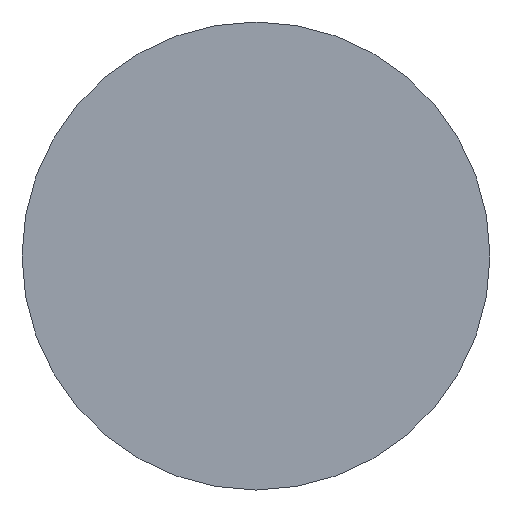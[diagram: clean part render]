
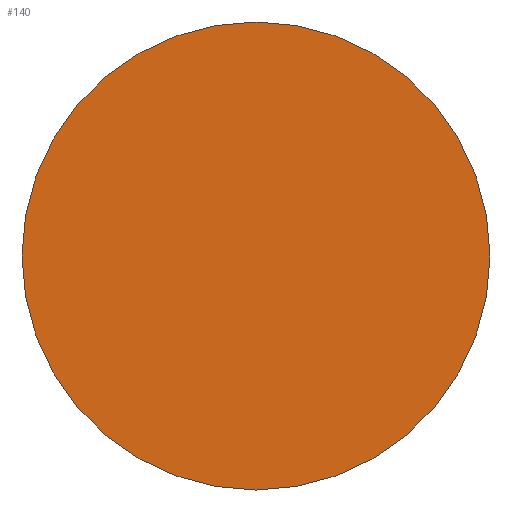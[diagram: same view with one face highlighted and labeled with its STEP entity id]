
A CAD part, left-side view. The second image highlights one B-rep face of the part: STEP entity #140.
In plain terms, the highlighted planar face has unit normal (-1, 0, 0).
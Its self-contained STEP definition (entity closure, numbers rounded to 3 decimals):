
#95 = VERTEX_POINT('',#96);
#96 = CARTESIAN_POINT('',(-37.4,164.4,37.55));
#104 = EDGE_CURVE('',#95,#95,#105,.T.);
#105 = CIRCLE('',#106,2.6);
#106 = AXIS2_PLACEMENT_3D('',#107,#108,#109);
#107 = CARTESIAN_POINT('',(-37.4,164.4,40.15));
#108 = DIRECTION('',(1.,-0.,0.));
#109 = DIRECTION('',(0.,0.,-1.));
#140 = ADVANCED_FACE('',(#141),#144,.F.);
#141 = FACE_BOUND('',#142,.F.);
#142 = EDGE_LOOP('',(#143));
#143 = ORIENTED_EDGE('',*,*,#104,.T.);
#144 = PLANE('',#145);
#145 = AXIS2_PLACEMENT_3D('',#146,#147,#148);
#146 = CARTESIAN_POINT('',(-37.4,164.4,40.15));
#147 = DIRECTION('',(1.,0.,0.));
#148 = DIRECTION('',(0.,0.,1.));
